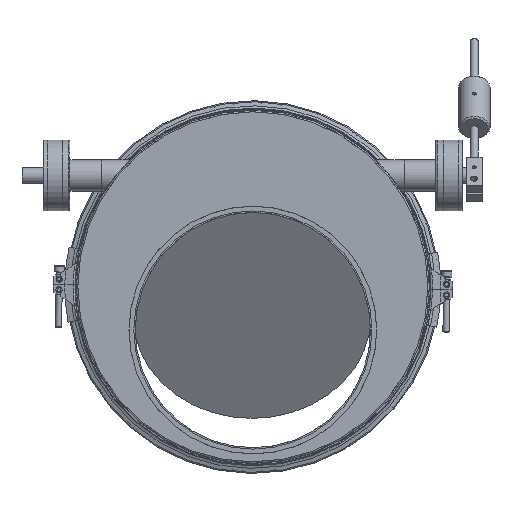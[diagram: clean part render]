
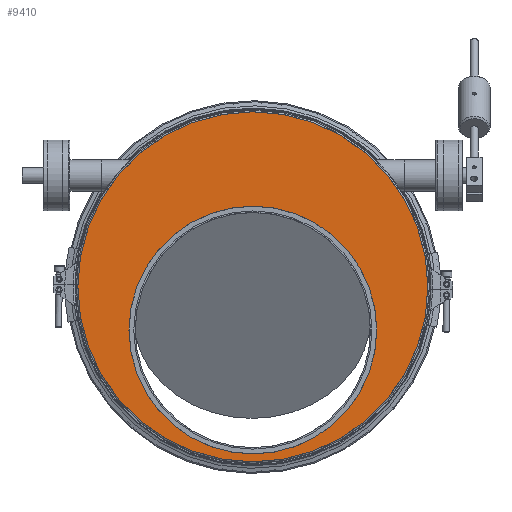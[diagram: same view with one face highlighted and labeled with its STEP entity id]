
A CAD part, top view. The second image highlights one B-rep face of the part: STEP entity #9410.
In plain terms, the highlighted planar face has unit normal (0, 0, 1).
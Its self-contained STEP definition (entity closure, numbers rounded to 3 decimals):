
#9291=CARTESIAN_POINT('',(-151.5,0.,25.0));
#9292=VERTEX_POINT('',#9291);
#9293=CARTESIAN_POINT('',(0.0,0.0,25.0));
#9294=DIRECTION('',(0.0,0.0,1.0));
#9295=DIRECTION('',(-1.0,0.0,0.0));
#9296=AXIS2_PLACEMENT_3D('',#9293,#9294,#9295);
#9297=CIRCLE('',#9296,151.5);
#9298=EDGE_CURVE('',#9292,#9292,#9297,.T.);
#9391=CARTESIAN_POINT('',(0.0,55.0,25.0));
#9392=DIRECTION('',(0.0,0.0,1.0));
#9393=DIRECTION('',(1.0,0.0,0.0));
#9394=AXIS2_PLACEMENT_3D('',#9391,#9392,#9393);
#9395=PLANE('',#9394);
#9396=CARTESIAN_POINT('',(-222.5,55.,25.0));
#9397=VERTEX_POINT('',#9396);
#9398=CARTESIAN_POINT('',(0.0,55.0,25.0));
#9399=DIRECTION('',(0.0,0.0,-1.0));
#9400=DIRECTION('',(1.0,0.0,0.0));
#9401=AXIS2_PLACEMENT_3D('',#9398,#9399,#9400);
#9402=CIRCLE('',#9401,222.5);
#9403=EDGE_CURVE('',#9397,#9397,#9402,.T.);
#9404=ORIENTED_EDGE('',*,*,#9403,.F.);
#9405=EDGE_LOOP('',(#9404));
#9406=FACE_OUTER_BOUND('',#9405,.T.);
#9407=ORIENTED_EDGE('',*,*,#9298,.F.);
#9408=EDGE_LOOP('',(#9407));
#9409=FACE_BOUND('',#9408,.T.);
#9410=ADVANCED_FACE('',(#9406,#9409),#9395,.T.);
